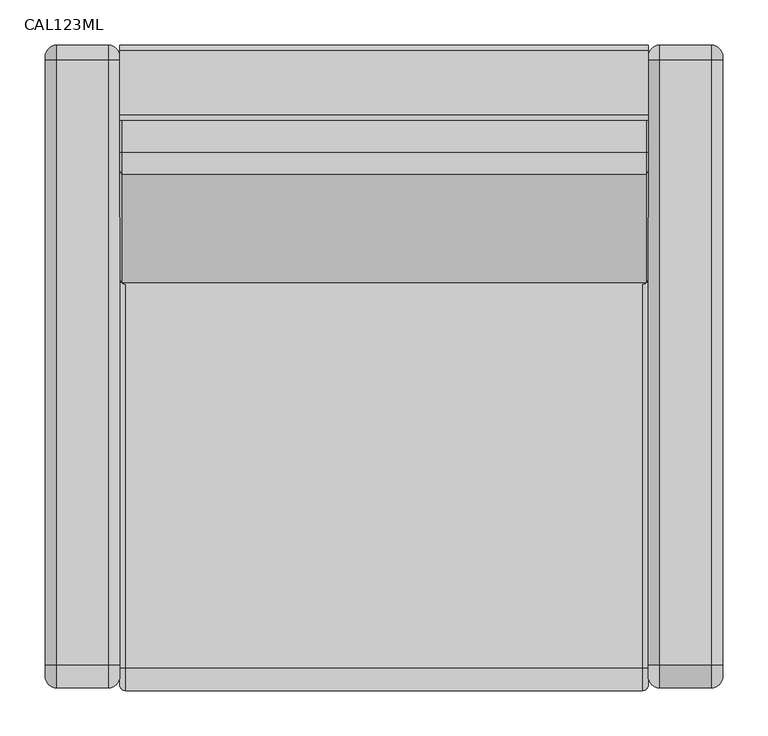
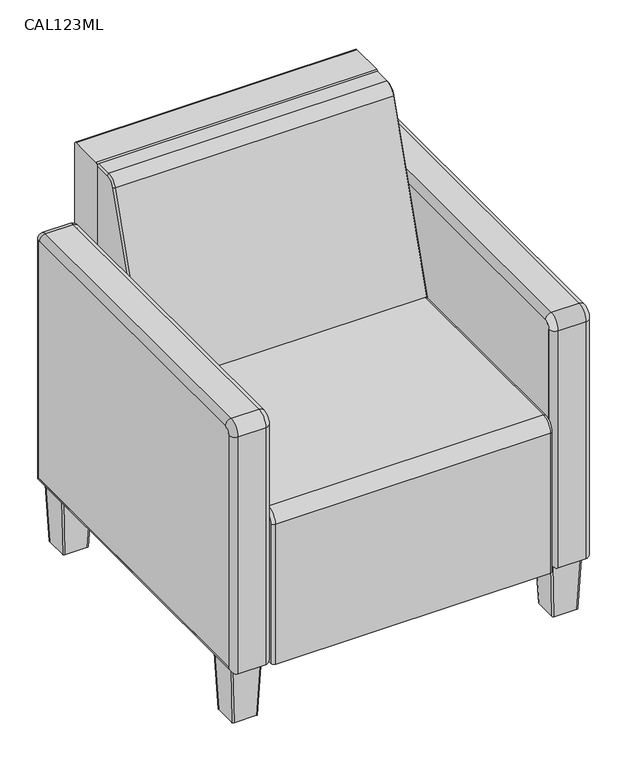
"""IFC4 building model written with IfcOpenShell, lengths in millimetres: furniture geometry, Stance_Healthacare-Carlson-Arm_Chair : CAL123ML."""

from ifc_helpers import new_model, si_unit, point, frame, frame_2d, origin, place, context, project, spatial, polyline, circle_curve, ellipse_curve, trimmed, segment, composite_curve, outline, extrude, source, transform, mapped, element, save
from ifc_brep_helpers import plane_surface, cylinder_surface, revolved_surface, extruded_surface, advanced_brep


def cal123ml_89b00feb(model_context):
    return source(origin(), model_context, "Body", "SolidModel", [
        extrude(outline(polyline([(120.65, 301.625), (123.825, 301.625), (123.825, 273.05), (149.225, 273.05), (149.225, 219.075), (146.05, 219.075), (146.05, 269.875), (120.65, 269.875), (120.65, 301.625)])), frame((0.0, -299.4664097, 0.0), z_axis=(0.0, 1.0, 0.0), x_axis=(0.0, 0.0, 1.0)), (0.0, 0.0, 1.0), 635.0),
        extrude(outline(composite_curve([segment(trimmed(circle_curve(frame_2d((357.7585903, 655.6502)), 3.175), [point((357.7585903, 658.8252))], [point((360.9335903, 655.6502))], False, "CARTESIAN"), True, "CONTINUOUS"), segment(polyline([(360.9335903, 655.6502), (360.9335903, 136.525), (-324.8664097, 136.525), (-324.8664097, 646.1252)]), True, "CONTINUOUS"), segment(trimmed(circle_curve(frame_2d((-312.1664097, 646.1252)), 12.7), [point((-324.8664097, 646.1252))], [point((-312.1664097, 658.8252))], False, "CARTESIAN"), True, "CONTINUOUS"), segment(polyline([(-312.1664097, 658.8252), (357.7585903, 658.8252)]), True, "CONTINUOUS")], self_intersect=False)), frame((292.1, 0.0, 0.0), z_axis=(1.0, 0.0, 0.0), x_axis=(0.0, 1.0, 0.0)), (0.0, 0.0, 1.0), 82.55),
        advanced_brep(
        [(304.8, 357.7585903, 671.5252), (361.95, 357.7585903, 671.5252), (361.95, 373.6335903, 655.6502), (304.8, 373.6335903, 655.6502), (292.1, 357.7585903, 658.8252), (292.1, 360.9335903, 655.6502), (374.65, 357.7585903, 658.8252), (374.65, 360.9335903, 655.6502), (304.8, -312.1664097, 671.5252), (361.95, -312.1664097, 671.5252), (292.1, -312.1664097, 658.8252), (374.65, -312.1664097, 658.8252), (304.8, -337.5664097, 646.1252), (361.95, -337.5664097, 646.1252), (292.1, -324.8664097, 646.1252), (374.65, -324.8664097, 646.1252), (304.8, -337.5664097, 123.825), (361.95, -337.5664097, 123.825), (292.1, -324.8664097, 136.525), (374.65, -324.8664097, 136.525), (304.8, 373.6335903, 123.825), (361.95, 373.6335903, 123.825), (292.1, 360.9335903, 136.525), (374.65, 360.9335903, 136.525)],
        [
            (0, 1),
            (1, 2, circle_curve(frame((361.95, 357.7585903, 655.6502), z_axis=(-1.0, 0.0, 0.0), x_axis=(0.0, 1.0, 0.0)), 15.875)),
            (2, 3),
            (3, 0, circle_curve(frame((304.8, 357.7585903, 655.6502), z_axis=(1.0, 0.0, 0.0), x_axis=(0.0, 1.0, 0.0)), 15.875)),
            (4, 0, circle_curve(frame((304.8, 357.7585903, 658.8252), z_axis=(0.0, 1.0, 0.0), x_axis=(-1.0, 0.0, 0.0)), 12.7)),
            (3, 5, circle_curve(frame((304.8, 360.9335903, 655.6502), z_axis=(0.0, 0.0, 1.0), x_axis=(-1.0, 0.0, 0.0)), 12.7)),
            (5, 4, circle_curve(frame((292.1, 357.7585903, 655.6502), z_axis=(1.0, 0.0, 0.0), x_axis=(0.0, 1.0, 0.0)), 3.175)),
            (6, 4),
            (5, 7),
            (7, 6, circle_curve(frame((374.65, 357.7585903, 655.6502), z_axis=(1.0, 0.0, 0.0), x_axis=(0.0, 1.0, 0.0)), 3.175)),
            (1, 6, circle_curve(frame((361.95, 357.7585903, 658.8252), z_axis=(0.0, 1.0, 0.0), x_axis=(-1.0, 0.0, 0.0)), 12.7)),
            (7, 2, circle_curve(frame((361.95, 360.9335903, 655.6502), z_axis=(0.0, 0.0, 1.0), x_axis=(-1.0, 0.0, 0.0)), 12.7)),
            (0, 8),
            (8, 9),
            (9, 1),
            (4, 10),
            (10, 8, circle_curve(frame((304.8, -312.1664097, 658.8252), z_axis=(0.0, 1.0, 0.0), x_axis=(-1.0, 0.0, 0.0)), 12.7)),
            (6, 11),
            (11, 10),
            (9, 11, circle_curve(frame((361.95, -312.1664097, 658.8252), z_axis=(0.0, 1.0, 0.0), x_axis=(-1.0, 0.0, 0.0)), 12.7)),
            (12, 13),
            (13, 9, circle_curve(frame((361.95, -312.1664097, 646.1252), z_axis=(-1.0, 0.0, 0.0), x_axis=(0.0, 0.0, 1.0)), 25.4)),
            (8, 12, circle_curve(frame((304.8, -312.1664097, 646.1252), z_axis=(1.0, 0.0, 0.0), x_axis=(0.0, 0.0, 1.0)), 25.4)),
            (14, 12, circle_curve(frame((304.8, -324.8664097, 646.1252), z_axis=(0.0, 0.0, 1.0), x_axis=(-1.0, 0.0, 0.0)), 12.7)),
            (10, 14, circle_curve(frame((292.1, -312.1664097, 646.1252), z_axis=(1.0, 0.0, 0.0), x_axis=(0.0, 0.0, 1.0)), 12.7)),
            (15, 14),
            (11, 15, circle_curve(frame((374.65, -312.1664097, 646.1252), z_axis=(1.0, 0.0, 0.0), x_axis=(0.0, 0.0, 1.0)), 12.7)),
            (13, 15, circle_curve(frame((361.95, -324.8664097, 646.1252), z_axis=(0.0, 0.0, 1.0), x_axis=(-1.0, 0.0, 0.0)), 12.7)),
            (12, 16),
            (16, 17),
            (17, 13),
            (14, 18),
            (18, 16, ellipse_curve(frame((304.8, -324.8664097, 136.525), z_axis=(0.0, -0.7071067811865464, 0.7071067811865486), x_axis=(0.0, 0.7071067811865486, 0.7071067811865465)), 17.9605122, 12.7)),
            (15, 19),
            (19, 18),
            (17, 19, ellipse_curve(frame((361.95, -324.8664097, 136.525), z_axis=(0.0, -0.7071067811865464, 0.7071067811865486), x_axis=(0.0, 0.7071067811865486, 0.7071067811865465)), 17.9605122, 12.7)),
            (16, 20),
            (20, 21),
            (21, 17),
            (18, 22),
            (22, 20, ellipse_curve(frame((304.8, 360.9335903, 136.525), z_axis=(0.0, -0.7071067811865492, -0.7071067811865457), x_axis=(0.0, -0.7071067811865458, 0.7071067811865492)), 17.9605122, 12.7)),
            (19, 23),
            (23, 22),
            (21, 23, ellipse_curve(frame((361.95, 360.9335903, 136.525), z_axis=(0.0, -0.7071067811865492, -0.7071067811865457), x_axis=(0.0, -0.7071067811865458, 0.7071067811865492)), 17.9605122, 12.7)),
            (20, 3),
            (2, 21),
            (22, 5),
            (23, 7),
        ],
        [
            cylinder_surface(frame((292.1, 357.7585903, 655.6502), z_axis=(-1.0, 0.0, 0.0), x_axis=(0.0, 1.0, 0.0)), 15.875),
            revolved_surface(trimmed(ellipse_curve(frame((304.8, 360.9335903, 655.6502), z_axis=(0.0, 0.0, 1.0), x_axis=(-1.0, 0.0, 0.0)), 12.7, 12.7), [point((304.8, 373.6335903, 655.6502))], [point((292.1, 360.9335903, 655.6502))], True, "CARTESIAN"), (292.1, 357.7585903, 655.6502), (-1.0, 0.0, 0.0)),
            revolved_surface(polyline([(292.1, 360.9335903, 655.6502), (374.65, 360.9335903, 655.6502)]), (292.1, 357.7585903, 655.6502), (-1.0, 0.0, 0.0)),
            revolved_surface(trimmed(ellipse_curve(frame((361.95, 360.9335903, 655.6502), z_axis=(0.0, 0.0, 1.0), x_axis=(-1.0, 0.0, 0.0)), 12.7, 12.7), [point((374.65, 360.9335903, 655.6502))], [point((361.95, 373.6335903, 655.6502))], True, "CARTESIAN"), (292.1, 357.7585903, 655.6502), (-1.0, 0.0, 0.0)),
            plane_surface(frame((361.95, 357.7585903, 671.5252), z_axis=(0.0, 0.0, 1.0), x_axis=(0.0, -1.0, 0.0))),
            cylinder_surface(frame((304.8, 357.7585903, 658.8252), z_axis=(0.0, 1.0, 0.0), x_axis=(-1.0, 0.0, 0.0)), 12.7),
            plane_surface(frame((292.1, 357.7585903, 658.8252), z_axis=(0.0, 0.0, -1.0), x_axis=(0.0, -1.0, 0.0))),
            cylinder_surface(frame((361.95, 357.7585903, 658.8252), z_axis=(0.0, 1.0, 0.0), x_axis=(-1.0, 0.0, 0.0)), 12.7),
            cylinder_surface(frame((292.1, -312.1664097, 646.1252), z_axis=(-1.0, 0.0, 0.0), x_axis=(0.0, 0.0, 1.0)), 25.4),
            revolved_surface(trimmed(ellipse_curve(frame((304.8, -312.1664097, 658.8252), z_axis=(0.0, -1.0, 0.0), x_axis=(-1.0, 0.0, 0.0)), 12.7, 12.7), [point((304.8, -312.1664097, 671.5252))], [point((292.1, -312.1664097, 658.8252))], True, "CARTESIAN"), (292.1, -312.1664097, 646.1252), (-1.0, 0.0, 0.0)),
            revolved_surface(polyline([(292.1, -312.1664097, 658.8252), (374.65, -312.1664097, 658.8252)]), (292.1, -312.1664097, 646.1252), (-1.0, 0.0, 0.0)),
            revolved_surface(trimmed(ellipse_curve(frame((361.95, -312.1664097, 658.8252), z_axis=(0.0, -1.0, 0.0), x_axis=(-1.0, 0.0, 0.0)), 12.7, 12.7), [point((374.65, -312.1664097, 658.8252))], [point((361.95, -312.1664097, 671.5252))], True, "CARTESIAN"), (292.1, -312.1664097, 646.1252), (-1.0, 0.0, 0.0)),
            plane_surface(frame((361.95, -337.5664097, 646.1252), z_axis=(0.0, -1.0, 0.0), x_axis=(0.0, 0.0, -1.0))),
            cylinder_surface(frame((304.8, -324.8664097, 646.1252), z_axis=(0.0, 0.0, 1.0), x_axis=(-1.0, 0.0, 0.0)), 12.7),
            plane_surface(frame((292.1, -324.8664097, 646.1252), z_axis=(0.0, 1.0, 0.0), x_axis=(0.0, 0.0, -1.0))),
            cylinder_surface(frame((361.95, -324.8664097, 646.1252), z_axis=(0.0, 0.0, 1.0), x_axis=(-1.0, 0.0, 0.0)), 12.7),
            plane_surface(frame((361.95, -337.5664097, 123.825), z_axis=(0.0, 0.0, -1.0), x_axis=(0.0, 1.0, 0.0))),
            cylinder_surface(frame((304.8, -337.5664097, 136.525), z_axis=(0.0, -1.0, 0.0), x_axis=(-1.0, 0.0, 0.0)), 12.7),
            plane_surface(frame((292.1, -324.8664097, 136.525), z_axis=(0.0, 0.0, 1.0), x_axis=(0.0, 1.0, 0.0))),
            cylinder_surface(frame((361.95, -337.5664097, 136.525), z_axis=(0.0, -1.0, 0.0), x_axis=(-1.0, 0.0, 0.0)), 12.7),
            plane_surface(frame((361.95, 373.6335903, 123.825), z_axis=(0.0, 1.0, 0.0), x_axis=(0.0, 0.0, 1.0))),
            cylinder_surface(frame((304.8, 360.9335903, 123.825), z_axis=(0.0, 0.0, -1.0), x_axis=(-1.0, 0.0, 0.0)), 12.7),
            plane_surface(frame((292.1, 360.9335903, 136.525), z_axis=(0.0, -1.0, 0.0), x_axis=(0.0, 0.0, 1.0))),
            cylinder_surface(frame((361.95, 360.9335903, 123.825), z_axis=(0.0, 0.0, -1.0), x_axis=(-1.0, 0.0, 0.0)), 12.7),
        ],
        [
            (0, [[1, 2, 3, 4]]),
            (1, [[5, -4, 6, 7]]),
            (2, [[8, -7, 9, 10]]),
            (3, [[11, -10, 12, -2]]),
            (4, [[13, 14, 15, -1]]),
            (5, [[16, 17, -13, -5]]),
            (6, [[18, 19, -16, -8]]),
            (7, [[-15, 20, -18, -11]]),
            (8, [[21, 22, -14, 23]]),
            (9, [[24, -23, -17, 25]]),
            (10, [[26, -25, -19, 27]]),
            (11, [[28, -27, -20, -22]]),
            (12, [[29, 30, 31, -21]]),
            (13, [[32, 33, -29, -24]]),
            (14, [[34, 35, -32, -26]]),
            (15, [[-31, 36, -34, -28]]),
            (16, [[37, 38, 39, -30]]),
            (17, [[40, 41, -37, -33]]),
            (18, [[42, 43, -40, -35]]),
            (19, [[-39, 44, -42, -36]]),
            (20, [[45, -3, 46, -38]]),
            (21, [[47, -6, -45, -41]]),
            (22, [[48, -9, -47, -43]]),
            (23, [[-46, -12, -48, -44]]),
        ],
    ),
        advanced_brep(
        [(304.8, 291.0835903, 123.825), (361.95, 291.0835903, 123.825), (365.125, 294.2585903, 123.825), (365.125, 351.4085903, 123.825), (361.95, 354.5835903, 123.825), (304.8, 354.5835903, 123.825), (301.625, 351.4085903, 123.825), (301.625, 294.2585903, 123.825), (309.959375, 296.2112153, 0.0), (306.784375, 299.3862153, 0.0), (306.784375, 346.2809653, 0.0), (309.959375, 349.4559653, 0.0), (356.790625, 349.4559653, 0.0), (359.965625, 346.2809653, 0.0), (359.965625, 299.3862153, 0.0), (356.790625, 296.2112153, 0.0)],
        [
            (0, 1),
            (1, 2, circle_curve(frame((361.95, 294.2585903, 123.825), z_axis=(0.0, 0.0, 1.0), x_axis=(-1.0, 0.0, 0.0)), 3.175)),
            (2, 3),
            (3, 4, circle_curve(frame((361.95, 351.4085903, 123.825), z_axis=(0.0, 0.0, 1.0), x_axis=(-1.0, 0.0, 0.0)), 3.175)),
            (4, 5),
            (5, 6, circle_curve(frame((304.8, 351.4085903, 123.825), z_axis=(0.0, 0.0, 1.0), x_axis=(-1.0, 0.0, 0.0)), 3.175)),
            (6, 7),
            (7, 0, circle_curve(frame((304.8, 294.2585903, 123.825), z_axis=(0.0, 0.0, 1.0), x_axis=(-1.0, 0.0, 0.0)), 3.175)),
            (8, 9, circle_curve(frame((309.959375, 299.3862153, 0.0), z_axis=(0.0, 0.0, -1.0), x_axis=(-1.0, 0.0, 0.0)), 3.175)),
            (9, 10),
            (10, 11, circle_curve(frame((309.959375, 346.2809653, 0.0), z_axis=(0.0, 0.0, -1.0), x_axis=(-1.0, 0.0, 0.0)), 3.175)),
            (11, 12),
            (12, 13, circle_curve(frame((356.790625, 346.2809653, 0.0), z_axis=(0.0, 0.0, -1.0), x_axis=(-1.0, 0.0, 0.0)), 3.175)),
            (13, 14),
            (14, 15, circle_curve(frame((356.790625, 299.3862153, 0.0), z_axis=(0.0, 0.0, -1.0), x_axis=(-1.0, 0.0, 0.0)), 3.175)),
            (15, 8),
            (8, 0),
            (7, 9),
            (6, 10),
            (5, 11),
            (4, 12),
            (3, 13),
            (2, 14),
            (1, 15),
        ],
        [
            plane_surface(frame((333.375, 322.8335903, 123.825), z_axis=(0.0, 0.0, 1.0), x_axis=(-1.0, 0.0, 0.0))),
            plane_surface(frame((333.375, 322.8335903, 0.0), z_axis=(0.0, 0.0, -1.0), x_axis=(-1.0, 0.0, 0.0))),
            extruded_surface(trimmed(circle_curve(frame((304.8, 294.2585903, 123.825), z_axis=(0.0, 0.0, -1.0), x_axis=(-1.0, 0.0, 0.0)), 3.175), [point((304.8, 291.0835903, 123.825))], [point((301.625, 294.2585903, 123.825))], True, "CARTESIAN"), (5.159375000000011, 5.127625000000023, -123.825), 124.03847110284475),
            plane_surface(frame((306.784375, 322.8335903, 0.0), z_axis=(-0.9991330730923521, 0.0, -0.04163054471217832), x_axis=(0.0, 1.0, 0.0))),
            extruded_surface(trimmed(circle_curve(frame((304.8, 351.4085903, 123.825), z_axis=(0.0, 0.0, -1.0), x_axis=(-1.0, 0.0, 0.0)), 3.175), [point((301.625, 351.4085903, 123.825))], [point((304.8, 354.5835903, 123.825))], True, "CARTESIAN"), (5.159375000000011, -5.127625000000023, -123.825), 124.03847110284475),
            plane_surface(frame((333.375, 349.4559653, 0.0), z_axis=(0.0, 0.9991436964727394, -0.04137479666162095), x_axis=(1.0, 0.0, 0.0))),
            extruded_surface(trimmed(circle_curve(frame((361.95, 351.4085903, 123.825), z_axis=(0.0, 0.0, -1.0), x_axis=(-1.0, 0.0, 0.0)), 3.175), [point((361.95, 354.5835903, 123.825))], [point((365.125, 351.4085903, 123.825))], True, "CARTESIAN"), (-5.159375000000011, -5.127625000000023, -123.825), 124.03847110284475),
            plane_surface(frame((359.965625, 322.8335903, 0.0), z_axis=(0.9991330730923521, 0.0, -0.04163054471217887), x_axis=(0.0, -1.0, 0.0))),
            extruded_surface(trimmed(circle_curve(frame((361.95, 294.2585903, 123.825), z_axis=(0.0, 0.0, -1.0), x_axis=(-1.0, 0.0, 0.0)), 3.175), [point((365.125, 294.2585903, 123.825))], [point((361.95, 291.0835903, 123.825))], True, "CARTESIAN"), (-5.159375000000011, 5.127625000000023, -123.825), 124.03847110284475),
            plane_surface(frame((333.375, 296.2112153, 0.0), z_axis=(0.0, -0.9991436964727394, -0.0413747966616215), x_axis=(-1.0, 0.0, 0.0))),
        ],
        [
            (0, [[1, 2, 3, 4, 5, 6, 7, 8]]),
            (1, [[9, 10, 11, 12, 13, 14, 15, 16]]),
            (2, [[17, -8, 18, -9]]),
            (3, [[-18, -7, 19, -10]]),
            (4, [[-19, -6, 20, -11]]),
            (5, [[-20, -5, 21, -12]]),
            (6, [[-21, -4, 22, -13]]),
            (7, [[-22, -3, 23, -14]]),
            (8, [[-23, -2, 24, -15]]),
            (9, [[-24, -1, -17, -16]]),
        ],
    ),
        advanced_brep(
        [(304.8, -255.0164097, 123.825), (301.625, -258.1914097, 123.825), (301.625, -315.3414097, 123.825), (304.8, -318.5164097, 123.825), (361.95, -318.5164097, 123.825), (365.125, -315.3414097, 123.825), (365.125, -258.1914097, 123.825), (361.95, -255.0164097, 123.825), (309.959375, -260.1440347, 0.0), (356.790625, -260.1440347, 0.0), (359.965625, -263.3190347, 0.0), (359.965625, -310.2137847, 0.0), (356.790625, -313.3887847, 0.0), (309.959375, -313.3887847, 0.0), (306.784375, -310.2137847, 0.0), (306.784375, -263.3190347, 0.0)],
        [
            (0, 1, circle_curve(frame((304.8, -258.1914097, 123.825), z_axis=(0.0, 0.0, 1.0), x_axis=(-1.0, 0.0, 0.0)), 3.175)),
            (1, 2),
            (2, 3, circle_curve(frame((304.8, -315.3414097, 123.825), z_axis=(0.0, 0.0, 1.0), x_axis=(-1.0, 0.0, 0.0)), 3.175)),
            (3, 4),
            (4, 5, circle_curve(frame((361.95, -315.3414097, 123.825), z_axis=(0.0, 0.0, 1.0), x_axis=(-1.0, 0.0, 0.0)), 3.175)),
            (5, 6),
            (6, 7, circle_curve(frame((361.95, -258.1914097, 123.825), z_axis=(0.0, 0.0, 1.0), x_axis=(-1.0, 0.0, 0.0)), 3.175)),
            (7, 0),
            (8, 9),
            (9, 10, circle_curve(frame((356.790625, -263.3190347, 0.0), z_axis=(0.0, 0.0, -1.0), x_axis=(-1.0, 0.0, 0.0)), 3.175)),
            (10, 11),
            (11, 12, circle_curve(frame((356.790625, -310.2137847, 0.0), z_axis=(0.0, 0.0, -1.0), x_axis=(-1.0, 0.0, 0.0)), 3.175)),
            (12, 13),
            (13, 14, circle_curve(frame((309.959375, -310.2137847, 0.0), z_axis=(0.0, 0.0, -1.0), x_axis=(-1.0, 0.0, 0.0)), 3.175)),
            (14, 15),
            (15, 8, circle_curve(frame((309.959375, -263.3190347, 0.0), z_axis=(0.0, 0.0, -1.0), x_axis=(-1.0, 0.0, 0.0)), 3.175)),
            (8, 0),
            (7, 9),
            (6, 10),
            (5, 11),
            (4, 12),
            (3, 13),
            (2, 14),
            (1, 15),
        ],
        [
            plane_surface(frame((333.375, -286.7664097, 123.825), z_axis=(0.0, 0.0, 1.0), x_axis=(-1.0, 0.0, 0.0))),
            plane_surface(frame((333.375, -286.7664097, 0.0), z_axis=(0.0, 0.0, -1.0), x_axis=(-1.0, 0.0, 0.0))),
            plane_surface(frame((333.375, -260.1440347, 0.0), z_axis=(0.0, 0.9991436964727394, -0.041374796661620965), x_axis=(1.0, 0.0, 0.0))),
            extruded_surface(trimmed(circle_curve(frame((361.95, -258.1914097, 123.825), z_axis=(0.0, 0.0, -1.0), x_axis=(-1.0, 0.0, 0.0)), 3.175), [point((361.95, -255.0164097, 123.825))], [point((365.125, -258.1914097, 123.825))], True, "CARTESIAN"), (-5.159375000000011, -5.127624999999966, -123.825), 124.03847110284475),
            plane_surface(frame((359.965625, -286.7664097, 0.0), z_axis=(0.9991330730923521, 0.0, -0.04163054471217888), x_axis=(0.0, -1.0, 0.0))),
            extruded_surface(trimmed(circle_curve(frame((361.95, -315.3414097, 123.825), z_axis=(0.0, 0.0, -1.0), x_axis=(-1.0, 0.0, 0.0)), 3.175), [point((365.125, -315.3414097, 123.825))], [point((361.95, -318.5164097, 123.825))], True, "CARTESIAN"), (-5.159375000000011, 5.127624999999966, -123.825), 124.03847110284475),
            plane_surface(frame((333.375, -313.3887847, 0.0), z_axis=(0.0, -0.9991436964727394, -0.041374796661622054), x_axis=(-1.0, 0.0, 0.0))),
            extruded_surface(trimmed(circle_curve(frame((304.8, -315.3414097, 123.825), z_axis=(0.0, 0.0, -1.0), x_axis=(-1.0, 0.0, 0.0)), 3.175), [point((304.8, -318.5164097, 123.825))], [point((301.625, -315.3414097, 123.825))], True, "CARTESIAN"), (5.159375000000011, 5.127624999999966, -123.825), 124.03847110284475),
            plane_surface(frame((306.784375, -286.7664097, 0.0), z_axis=(-0.9991330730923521, 0.0, -0.041630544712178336), x_axis=(0.0, 1.0, 0.0))),
            extruded_surface(trimmed(circle_curve(frame((304.8, -258.1914097, 123.825), z_axis=(0.0, 0.0, -1.0), x_axis=(-1.0, 0.0, 0.0)), 3.175), [point((301.625, -258.1914097, 123.825))], [point((304.8, -255.0164097, 123.825))], True, "CARTESIAN"), (5.159375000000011, -5.127624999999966, -123.825), 124.03847110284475),
        ],
        [
            (0, [[1, 2, 3, 4, 5, 6, 7, 8]]),
            (1, [[9, 10, 11, 12, 13, 14, 15, 16]]),
            (2, [[17, -8, 18, -9]]),
            (3, [[-18, -7, 19, -10]]),
            (4, [[-19, -6, 20, -11]]),
            (5, [[-20, -5, 21, -12]]),
            (6, [[-21, -4, 22, -13]]),
            (7, [[-22, -3, 23, -14]]),
            (8, [[-23, -2, 24, -15]]),
            (9, [[-24, -1, -17, -16]]),
        ],
    ),
        extrude(outline(polyline([(120.65, -301.625), (120.65, -269.875), (146.05, -269.875), (146.05, -219.075), (149.225, -219.075), (149.225, -273.05), (123.825, -273.05), (123.825, -301.625), (120.65, -301.625)])), frame((0.0, -299.4664097, 0.0), z_axis=(0.0, 1.0, 0.0), x_axis=(0.0, 0.0, 1.0)), (0.0, 0.0, 1.0), 635.0),
        extrude(outline(composite_curve([segment(trimmed(circle_curve(frame_2d((357.7585903, 655.6502)), 3.175), [point((357.7585903, 658.8252))], [point((360.9335903, 655.6502))], False, "CARTESIAN"), True, "CONTINUOUS"), segment(polyline([(360.9335903, 655.6502), (360.9335903, 136.525), (-324.8664097, 136.525), (-324.8664097, 646.1252)]), True, "CONTINUOUS"), segment(trimmed(circle_curve(frame_2d((-312.1664097, 646.1252)), 12.7), [point((-324.8664097, 646.1252))], [point((-312.1664097, 658.8252))], False, "CARTESIAN"), True, "CONTINUOUS"), segment(polyline([(-312.1664097, 658.8252), (357.7585903, 658.8252)]), True, "CONTINUOUS")], self_intersect=False)), frame((-374.65, 0.0, 0.0), z_axis=(1.0, 0.0, 0.0), x_axis=(0.0, 1.0, 0.0)), (0.0, 0.0, 1.0), 82.55),
        advanced_brep(
        [(-304.8, 357.7585903, 671.5252), (-304.8, 373.6335903, 655.6502), (-361.95, 373.6335903, 655.6502), (-361.95, 357.7585903, 671.5252), (-292.1, 357.7585903, 658.8252), (-292.1, 360.9335903, 655.6502), (-374.65, 357.7585903, 658.8252), (-374.65, 360.9335903, 655.6502), (-361.95, -312.1664097, 671.5252), (-304.8, -312.1664097, 671.5252), (-292.1, -312.1664097, 658.8252), (-374.65, -312.1664097, 658.8252), (-304.8, -337.5664097, 646.1252), (-361.95, -337.5664097, 646.1252), (-292.1, -324.8664097, 646.1252), (-374.65, -324.8664097, 646.1252), (-361.95, -337.5664097, 123.825), (-304.8, -337.5664097, 123.825), (-292.1, -324.8664097, 136.525), (-374.65, -324.8664097, 136.525), (-361.95, 373.6335903, 123.825), (-304.8, 373.6335903, 123.825), (-292.1, 360.9335903, 136.525), (-374.65, 360.9335903, 136.525)],
        [
            (0, 1, circle_curve(frame((-304.8, 357.7585903, 655.6502), z_axis=(-1.0, 0.0, 0.0), x_axis=(0.0, 1.0, 0.0)), 15.875)),
            (1, 2),
            (2, 3, circle_curve(frame((-361.95, 357.7585903, 655.6502), z_axis=(1.0, 0.0, 0.0), x_axis=(0.0, 1.0, 0.0)), 15.875)),
            (3, 0),
            (4, 5, circle_curve(frame((-292.1, 357.7585903, 655.6502), z_axis=(-1.0, 0.0, 0.0), x_axis=(0.0, 1.0, 0.0)), 3.175)),
            (5, 1, circle_curve(frame((-304.8, 360.9335903, 655.6502), z_axis=(0.0, 0.0, 1.0), x_axis=(1.0, 0.0, 0.0)), 12.7)),
            (0, 4, circle_curve(frame((-304.8, 357.7585903, 658.8252), z_axis=(0.0, 1.0, 0.0), x_axis=(1.0, 0.0, 0.0)), 12.7)),
            (6, 7, circle_curve(frame((-374.65, 357.7585903, 655.6502), z_axis=(-1.0, 0.0, 0.0), x_axis=(0.0, 1.0, 0.0)), 3.175)),
            (7, 5),
            (4, 6),
            (2, 7, circle_curve(frame((-361.95, 360.9335903, 655.6502), z_axis=(0.0, 0.0, 1.0), x_axis=(1.0, 0.0, 0.0)), 12.7)),
            (6, 3, circle_curve(frame((-361.95, 357.7585903, 658.8252), z_axis=(0.0, 1.0, 0.0), x_axis=(1.0, 0.0, 0.0)), 12.7)),
            (3, 8),
            (8, 9),
            (9, 0),
            (9, 10, circle_curve(frame((-304.8, -312.1664097, 658.8252), z_axis=(0.0, 1.0, 0.0), x_axis=(1.0, 0.0, 0.0)), 12.7)),
            (10, 4),
            (10, 11),
            (11, 6),
            (11, 8, circle_curve(frame((-361.95, -312.1664097, 658.8252), z_axis=(0.0, 1.0, 0.0), x_axis=(1.0, 0.0, 0.0)), 12.7)),
            (12, 9, circle_curve(frame((-304.8, -312.1664097, 646.1252), z_axis=(-1.0, 0.0, 0.0), x_axis=(0.0, 0.0, 1.0)), 25.4)),
            (8, 13, circle_curve(frame((-361.95, -312.1664097, 646.1252), z_axis=(1.0, 0.0, 0.0), x_axis=(0.0, 0.0, 1.0)), 25.4)),
            (13, 12),
            (14, 10, circle_curve(frame((-292.1, -312.1664097, 646.1252), z_axis=(-1.0, 0.0, 0.0), x_axis=(0.0, 0.0, 1.0)), 12.7)),
            (12, 14, circle_curve(frame((-304.8, -324.8664097, 646.1252), z_axis=(0.0, 0.0, 1.0), x_axis=(1.0, 0.0, 0.0)), 12.7)),
            (15, 11, circle_curve(frame((-374.65, -312.1664097, 646.1252), z_axis=(-1.0, 0.0, 0.0), x_axis=(0.0, 0.0, 1.0)), 12.7)),
            (14, 15),
            (15, 13, circle_curve(frame((-361.95, -324.8664097, 646.1252), z_axis=(0.0, 0.0, 1.0), x_axis=(1.0, 0.0, 0.0)), 12.7)),
            (13, 16),
            (16, 17),
            (17, 12),
            (17, 18, ellipse_curve(frame((-304.8, -324.8664097, 136.525), z_axis=(0.0, -0.7071067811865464, 0.7071067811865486), x_axis=(0.0, 0.7071067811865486, 0.7071067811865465)), 17.9605122, 12.7)),
            (18, 14),
            (18, 19),
            (19, 15),
            (19, 16, ellipse_curve(frame((-361.95, -324.8664097, 136.525), z_axis=(0.0, -0.7071067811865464, 0.7071067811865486), x_axis=(0.0, 0.7071067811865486, 0.7071067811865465)), 17.9605122, 12.7)),
            (16, 20),
            (20, 21),
            (21, 17),
            (21, 22, ellipse_curve(frame((-304.8, 360.9335903, 136.525), z_axis=(0.0, -0.7071067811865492, -0.7071067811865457), x_axis=(0.0, -0.7071067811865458, 0.7071067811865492)), 17.9605122, 12.7)),
            (22, 18),
            (22, 23),
            (23, 19),
            (23, 20, ellipse_curve(frame((-361.95, 360.9335903, 136.525), z_axis=(0.0, -0.7071067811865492, -0.7071067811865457), x_axis=(0.0, -0.7071067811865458, 0.7071067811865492)), 17.9605122, 12.7)),
            (20, 2),
            (1, 21),
            (5, 22),
            (7, 23),
        ],
        [
            cylinder_surface(frame((-292.1, 357.7585903, 655.6502), z_axis=(1.0, 0.0, 0.0), x_axis=(0.0, 1.0, 0.0)), 15.875),
            revolved_surface(trimmed(ellipse_curve(frame((-304.8, 360.9335903, 655.6502), z_axis=(0.0, 0.0, -1.0), x_axis=(1.0, 0.0, 0.0)), 12.7, 12.7), [point((-304.8, 373.6335903, 655.6502))], [point((-292.1, 360.9335903, 655.6502))], True, "CARTESIAN"), (-292.1, 357.7585903, 655.6502), (1.0, 0.0, 0.0)),
            revolved_surface(polyline([(-292.1, 360.9335903, 655.6502), (-374.65, 360.9335903, 655.6502)]), (-292.1, 357.7585903, 655.6502), (1.0, 0.0, 0.0)),
            revolved_surface(trimmed(ellipse_curve(frame((-361.95, 360.9335903, 655.6502), z_axis=(0.0, 0.0, -1.0), x_axis=(1.0, 0.0, 0.0)), 12.7, 12.7), [point((-374.65, 360.9335903, 655.6502))], [point((-361.95, 373.6335903, 655.6502))], True, "CARTESIAN"), (-292.1, 357.7585903, 655.6502), (1.0, 0.0, 0.0)),
            plane_surface(frame((-361.95, 357.7585903, 671.5252), z_axis=(0.0, 0.0, 1.0), x_axis=(0.0, -1.0, 0.0))),
            cylinder_surface(frame((-304.8, 357.7585903, 658.8252), z_axis=(0.0, 1.0, 0.0), x_axis=(1.0, 0.0, 0.0)), 12.7),
            plane_surface(frame((-292.1, 357.7585903, 658.8252), z_axis=(0.0, 0.0, -1.0), x_axis=(0.0, -1.0, 0.0))),
            cylinder_surface(frame((-361.95, 357.7585903, 658.8252), z_axis=(0.0, 1.0, 0.0), x_axis=(1.0, 0.0, 0.0)), 12.7),
            cylinder_surface(frame((-292.1, -312.1664097, 646.1252), z_axis=(1.0, 0.0, 0.0), x_axis=(0.0, 0.0, 1.0)), 25.4),
            revolved_surface(trimmed(ellipse_curve(frame((-304.8, -312.1664097, 658.8252), z_axis=(0.0, 1.0, 0.0), x_axis=(1.0, 0.0, 0.0)), 12.7, 12.7), [point((-304.8, -312.1664097, 671.5252))], [point((-292.1, -312.1664097, 658.8252))], True, "CARTESIAN"), (-292.1, -312.1664097, 646.1252), (1.0, 0.0, 0.0)),
            revolved_surface(polyline([(-292.1, -312.1664097, 658.8252), (-374.65, -312.1664097, 658.8252)]), (-292.1, -312.1664097, 646.1252), (1.0, 0.0, 0.0)),
            revolved_surface(trimmed(ellipse_curve(frame((-361.95, -312.1664097, 658.8252), z_axis=(0.0, 1.0, 0.0), x_axis=(1.0, 0.0, 0.0)), 12.7, 12.7), [point((-374.65, -312.1664097, 658.8252))], [point((-361.95, -312.1664097, 671.5252))], True, "CARTESIAN"), (-292.1, -312.1664097, 646.1252), (1.0, 0.0, 0.0)),
            plane_surface(frame((-361.95, -337.5664097, 646.1252), z_axis=(0.0, -1.0, 0.0), x_axis=(0.0, 0.0, -1.0))),
            cylinder_surface(frame((-304.8, -324.8664097, 646.1252), z_axis=(0.0, 0.0, 1.0), x_axis=(1.0, 0.0, 0.0)), 12.7),
            plane_surface(frame((-292.1, -324.8664097, 646.1252), z_axis=(0.0, 1.0, 0.0), x_axis=(0.0, 0.0, -1.0))),
            cylinder_surface(frame((-361.95, -324.8664097, 646.1252), z_axis=(0.0, 0.0, 1.0), x_axis=(1.0, 0.0, 0.0)), 12.7),
            plane_surface(frame((-361.95, -337.5664097, 123.825), z_axis=(0.0, 0.0, -1.0), x_axis=(0.0, 1.0, 0.0))),
            cylinder_surface(frame((-304.8, -337.5664097, 136.525), z_axis=(0.0, -1.0, 0.0), x_axis=(1.0, 0.0, 0.0)), 12.7),
            plane_surface(frame((-292.1, -324.8664097, 136.525), z_axis=(0.0, 0.0, 1.0), x_axis=(0.0, 1.0, 0.0))),
            cylinder_surface(frame((-361.95, -337.5664097, 136.525), z_axis=(0.0, -1.0, 0.0), x_axis=(1.0, 0.0, 0.0)), 12.7),
            plane_surface(frame((-361.95, 373.6335903, 123.825), z_axis=(0.0, 1.0, 0.0), x_axis=(0.0, 0.0, 1.0))),
            cylinder_surface(frame((-304.8, 360.9335903, 123.825), z_axis=(0.0, 0.0, -1.0), x_axis=(1.0, 0.0, 0.0)), 12.7),
            plane_surface(frame((-292.1, 360.9335903, 136.525), z_axis=(0.0, -1.0, 0.0), x_axis=(0.0, 0.0, 1.0))),
            cylinder_surface(frame((-361.95, 360.9335903, 123.825), z_axis=(0.0, 0.0, -1.0), x_axis=(1.0, 0.0, 0.0)), 12.7),
        ],
        [
            (0, [[1, 2, 3, 4]]),
            (1, [[5, 6, -1, 7]]),
            (2, [[8, 9, -5, 10]]),
            (3, [[-3, 11, -8, 12]]),
            (4, [[-4, 13, 14, 15]]),
            (5, [[-7, -15, 16, 17]]),
            (6, [[-10, -17, 18, 19]]),
            (7, [[-12, -19, 20, -13]]),
            (8, [[21, -14, 22, 23]]),
            (9, [[24, -16, -21, 25]]),
            (10, [[26, -18, -24, 27]]),
            (11, [[-22, -20, -26, 28]]),
            (12, [[-23, 29, 30, 31]]),
            (13, [[-25, -31, 32, 33]]),
            (14, [[-27, -33, 34, 35]]),
            (15, [[-28, -35, 36, -29]]),
            (16, [[-30, 37, 38, 39]]),
            (17, [[-32, -39, 40, 41]]),
            (18, [[-34, -41, 42, 43]]),
            (19, [[-36, -43, 44, -37]]),
            (20, [[-38, 45, -2, 46]]),
            (21, [[-40, -46, -6, 47]]),
            (22, [[-42, -47, -9, 48]]),
            (23, [[-44, -48, -11, -45]]),
        ],
    ),
        advanced_brep(
        [(-304.8, 291.0835903, 123.825), (-301.625, 294.2585903, 123.825), (-301.625, 351.4085903, 123.825), (-304.8, 354.5835903, 123.825), (-361.95, 354.5835903, 123.825), (-365.125, 351.4085903, 123.825), (-365.125, 294.2585903, 123.825), (-361.95, 291.0835903, 123.825), (-309.959375, 296.2112153, 0.0), (-356.790625, 296.2112153, 0.0), (-359.965625, 299.3862153, 0.0), (-359.965625, 346.2809653, 0.0), (-356.790625, 349.4559653, 0.0), (-309.959375, 349.4559653, 0.0), (-306.784375, 346.2809653, 0.0), (-306.784375, 299.3862153, 0.0)],
        [
            (0, 1, circle_curve(frame((-304.8, 294.2585903, 123.825), z_axis=(0.0, 0.0, 1.0), x_axis=(1.0, 0.0, 0.0)), 3.175)),
            (1, 2),
            (2, 3, circle_curve(frame((-304.8, 351.4085903, 123.825), z_axis=(0.0, 0.0, 1.0), x_axis=(1.0, 0.0, 0.0)), 3.175)),
            (3, 4),
            (4, 5, circle_curve(frame((-361.95, 351.4085903, 123.825), z_axis=(0.0, 0.0, 1.0), x_axis=(1.0, 0.0, 0.0)), 3.175)),
            (5, 6),
            (6, 7, circle_curve(frame((-361.95, 294.2585903, 123.825), z_axis=(0.0, 0.0, 1.0), x_axis=(1.0, 0.0, 0.0)), 3.175)),
            (7, 0),
            (8, 9),
            (9, 10, circle_curve(frame((-356.790625, 299.3862153, 0.0), z_axis=(0.0, 0.0, -1.0), x_axis=(1.0, 0.0, 0.0)), 3.175)),
            (10, 11),
            (11, 12, circle_curve(frame((-356.790625, 346.2809653, 0.0), z_axis=(0.0, 0.0, -1.0), x_axis=(1.0, 0.0, 0.0)), 3.175)),
            (12, 13),
            (13, 14, circle_curve(frame((-309.959375, 346.2809653, 0.0), z_axis=(0.0, 0.0, -1.0), x_axis=(1.0, 0.0, 0.0)), 3.175)),
            (14, 15),
            (15, 8, circle_curve(frame((-309.959375, 299.3862153, 0.0), z_axis=(0.0, 0.0, -1.0), x_axis=(1.0, 0.0, 0.0)), 3.175)),
            (15, 1),
            (0, 8),
            (14, 2),
            (13, 3),
            (12, 4),
            (11, 5),
            (10, 6),
            (9, 7),
        ],
        [
            plane_surface(frame((-333.375, 322.8335903, 123.825), z_axis=(0.0, 0.0, 1.0), x_axis=(1.0, 0.0, 0.0))),
            plane_surface(frame((-333.375, 322.8335903, 0.0), z_axis=(0.0, 0.0, -1.0), x_axis=(1.0, 0.0, 0.0))),
            extruded_surface(trimmed(circle_curve(frame((-309.959375, 299.3862153, 0.0), z_axis=(0.0, 0.0, 1.0), x_axis=(1.0, 0.0, 0.0)), 3.175), [point((-309.959375, 296.2112153, 0.0))], [point((-306.784375, 299.3862153, 0.0))], True, "CARTESIAN"), (5.159375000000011, -5.127625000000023, 123.825), 124.03847110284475),
            plane_surface(frame((-306.784375, 322.8335903, 0.0), z_axis=(0.9991330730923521, 0.0, -0.04163054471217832), x_axis=(0.0, 1.0, 0.0))),
            extruded_surface(trimmed(circle_curve(frame((-309.959375, 346.2809653, 0.0), z_axis=(0.0, 0.0, 1.0), x_axis=(1.0, 0.0, 0.0)), 3.175), [point((-306.784375, 346.2809653, 0.0))], [point((-309.959375, 349.4559653, 0.0))], True, "CARTESIAN"), (5.159375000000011, 5.127625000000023, 123.825), 124.03847110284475),
            plane_surface(frame((-333.375, 349.4559653, 0.0), z_axis=(0.0, 0.9991436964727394, -0.04137479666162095), x_axis=(-1.0, 0.0, 0.0))),
            extruded_surface(trimmed(circle_curve(frame((-356.790625, 346.2809653, 0.0), z_axis=(0.0, 0.0, 1.0), x_axis=(1.0, 0.0, 0.0)), 3.175), [point((-356.790625, 349.4559653, 0.0))], [point((-359.965625, 346.2809653, 0.0))], True, "CARTESIAN"), (-5.159375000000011, 5.127625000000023, 123.825), 124.03847110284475),
            plane_surface(frame((-359.965625, 322.8335903, 0.0), z_axis=(-0.9991330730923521, 0.0, -0.04163054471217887), x_axis=(0.0, -1.0, 0.0))),
            extruded_surface(trimmed(circle_curve(frame((-356.790625, 299.3862153, 0.0), z_axis=(0.0, 0.0, 1.0), x_axis=(1.0, 0.0, 0.0)), 3.175), [point((-359.965625, 299.3862153, 0.0))], [point((-356.790625, 296.2112153, 0.0))], True, "CARTESIAN"), (-5.159375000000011, -5.127625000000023, 123.825), 124.03847110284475),
            plane_surface(frame((-333.375, 296.2112153, 0.0), z_axis=(0.0, -0.9991436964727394, -0.0413747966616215), x_axis=(1.0, 0.0, 0.0))),
        ],
        [
            (0, [[1, 2, 3, 4, 5, 6, 7, 8]]),
            (1, [[9, 10, 11, 12, 13, 14, 15, 16]]),
            (2, [[-16, 17, -1, 18]]),
            (3, [[-15, 19, -2, -17]]),
            (4, [[-14, 20, -3, -19]]),
            (5, [[-13, 21, -4, -20]]),
            (6, [[-12, 22, -5, -21]]),
            (7, [[-11, 23, -6, -22]]),
            (8, [[-10, 24, -7, -23]]),
            (9, [[-9, -18, -8, -24]]),
        ],
    ),
        advanced_brep(
        [(-304.8, -255.0164097, 123.825), (-361.95, -255.0164097, 123.825), (-365.125, -258.1914097, 123.825), (-365.125, -315.3414097, 123.825), (-361.95, -318.5164097, 123.825), (-304.8, -318.5164097, 123.825), (-301.625, -315.3414097, 123.825), (-301.625, -258.1914097, 123.825), (-309.959375, -260.1440347, 0.0), (-306.784375, -263.3190347, 0.0), (-306.784375, -310.2137847, 0.0), (-309.959375, -313.3887847, 0.0), (-356.790625, -313.3887847, 0.0), (-359.965625, -310.2137847, 0.0), (-359.965625, -263.3190347, 0.0), (-356.790625, -260.1440347, 0.0)],
        [
            (0, 1),
            (1, 2, circle_curve(frame((-361.95, -258.1914097, 123.825), z_axis=(0.0, 0.0, 1.0), x_axis=(1.0, 0.0, 0.0)), 3.175)),
            (2, 3),
            (3, 4, circle_curve(frame((-361.95, -315.3414097, 123.825), z_axis=(0.0, 0.0, 1.0), x_axis=(1.0, 0.0, 0.0)), 3.175)),
            (4, 5),
            (5, 6, circle_curve(frame((-304.8, -315.3414097, 123.825), z_axis=(0.0, 0.0, 1.0), x_axis=(1.0, 0.0, 0.0)), 3.175)),
            (6, 7),
            (7, 0, circle_curve(frame((-304.8, -258.1914097, 123.825), z_axis=(0.0, 0.0, 1.0), x_axis=(1.0, 0.0, 0.0)), 3.175)),
            (8, 9, circle_curve(frame((-309.959375, -263.3190347, 0.0), z_axis=(0.0, 0.0, -1.0), x_axis=(1.0, 0.0, 0.0)), 3.175)),
            (9, 10),
            (10, 11, circle_curve(frame((-309.959375, -310.2137847, 0.0), z_axis=(0.0, 0.0, -1.0), x_axis=(1.0, 0.0, 0.0)), 3.175)),
            (11, 12),
            (12, 13, circle_curve(frame((-356.790625, -310.2137847, 0.0), z_axis=(0.0, 0.0, -1.0), x_axis=(1.0, 0.0, 0.0)), 3.175)),
            (13, 14),
            (14, 15, circle_curve(frame((-356.790625, -263.3190347, 0.0), z_axis=(0.0, 0.0, -1.0), x_axis=(1.0, 0.0, 0.0)), 3.175)),
            (15, 8),
            (15, 1),
            (0, 8),
            (14, 2),
            (13, 3),
            (12, 4),
            (11, 5),
            (10, 6),
            (9, 7),
        ],
        [
            plane_surface(frame((-333.375, -286.7664097, 123.825), z_axis=(0.0, 0.0, 1.0), x_axis=(1.0, 0.0, 0.0))),
            plane_surface(frame((-333.375, -286.7664097, 0.0), z_axis=(0.0, 0.0, -1.0), x_axis=(1.0, 0.0, 0.0))),
            plane_surface(frame((-333.375, -260.1440347, 0.0), z_axis=(0.0, 0.9991436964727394, -0.041374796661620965), x_axis=(-1.0, 0.0, 0.0))),
            extruded_surface(trimmed(circle_curve(frame((-356.790625, -263.3190347, 0.0), z_axis=(0.0, 0.0, 1.0), x_axis=(1.0, 0.0, 0.0)), 3.175), [point((-356.790625, -260.1440347, 0.0))], [point((-359.965625, -263.3190347, 0.0))], True, "CARTESIAN"), (-5.159375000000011, 5.127624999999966, 123.825), 124.03847110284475),
            plane_surface(frame((-359.965625, -286.7664097, 0.0), z_axis=(-0.9991330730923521, 0.0, -0.04163054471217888), x_axis=(0.0, -1.0, 0.0))),
            extruded_surface(trimmed(circle_curve(frame((-356.790625, -310.2137847, 0.0), z_axis=(0.0, 0.0, 1.0), x_axis=(1.0, 0.0, 0.0)), 3.175), [point((-359.965625, -310.2137847, 0.0))], [point((-356.790625, -313.3887847, 0.0))], True, "CARTESIAN"), (-5.159375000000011, -5.127624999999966, 123.825), 124.03847110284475),
            plane_surface(frame((-333.375, -313.3887847, 0.0), z_axis=(0.0, -0.9991436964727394, -0.041374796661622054), x_axis=(1.0, 0.0, 0.0))),
            extruded_surface(trimmed(circle_curve(frame((-309.959375, -310.2137847, 0.0), z_axis=(0.0, 0.0, 1.0), x_axis=(1.0, 0.0, 0.0)), 3.175), [point((-309.959375, -313.3887847, 0.0))], [point((-306.784375, -310.2137847, 0.0))], True, "CARTESIAN"), (5.159375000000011, -5.127624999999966, 123.825), 124.03847110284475),
            plane_surface(frame((-306.784375, -286.7664097, 0.0), z_axis=(0.9991330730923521, 0.0, -0.041630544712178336), x_axis=(0.0, 1.0, 0.0))),
            extruded_surface(trimmed(circle_curve(frame((-309.959375, -263.3190347, 0.0), z_axis=(0.0, 0.0, 1.0), x_axis=(1.0, 0.0, 0.0)), 3.175), [point((-306.784375, -263.3190347, 0.0))], [point((-309.959375, -260.1440347, 0.0))], True, "CARTESIAN"), (5.159375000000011, 5.127624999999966, 123.825), 124.03847110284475),
        ],
        [
            (0, [[1, 2, 3, 4, 5, 6, 7, 8]]),
            (1, [[9, 10, 11, 12, 13, 14, 15, 16]]),
            (2, [[-16, 17, -1, 18]]),
            (3, [[-15, 19, -2, -17]]),
            (4, [[-14, 20, -3, -19]]),
            (5, [[-13, 21, -4, -20]]),
            (6, [[-12, 22, -5, -21]]),
            (7, [[-11, 23, -6, -22]]),
            (8, [[-10, 24, -7, -23]]),
            (9, [[-9, -18, -8, -24]]),
        ],
    ),
        advanced_brep(
        [(-292.1, 255.2487311, 836.6125), (-289.9501302, 255.2487311, 841.375), (-289.9501302, 290.2429308, 841.375), (-292.1, 290.2429308, 836.6125), (-292.1, 235.6213022, 822.3523382), (-289.9501302, 231.0918956, 823.8240317), (-292.1, 115.9409077, 454.0139582), (-289.9501302, 110.9333188, 454.0139582), (292.1, 290.2429308, 454.0139582), (292.1, 290.2429308, 836.6125), (292.1, 255.2487311, 836.6125), (292.1, 235.6213022, 822.3523382), (292.1, 115.9409077, 454.0139582), (-292.1, 290.2429308, 454.0139582), (289.9501302, 290.2429308, 841.375), (289.9501302, 255.2487311, 841.375), (289.9501302, 231.0918956, 823.8240317), (289.9501302, 110.9333188, 454.0139582)],
        [
            (0, 1, circle_curve(frame((-285.75, 255.2487311, 836.6125), z_axis=(0.0, 1.0, 0.0), x_axis=(0.0, 0.0, -1.0)), 6.35)),
            (1, 2),
            (2, 3, circle_curve(frame((-285.75, 290.2429308, 836.6125), z_axis=(0.0, -1.0, 0.0), x_axis=(0.0, 0.0, -1.0)), 6.35)),
            (3, 0),
            (0, 4, circle_curve(frame((-292.1, 255.2487311, 815.975), z_axis=(1.0, 0.0, 0.0), x_axis=(0.0, 0.0, 1.0)), 20.6375)),
            (4, 5, circle_curve(frame((-285.75, 235.6213022, 822.3523382), z_axis=(0.0, 0.3090169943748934, 0.9510565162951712), x_axis=(0.0, 0.9510565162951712, -0.3090169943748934)), 6.35)),
            (5, 1, circle_curve(frame((-289.9501302, 255.2487311, 815.975), z_axis=(-1.0, 0.0, 0.0), x_axis=(0.0, 0.0, 1.0)), 25.4)),
            (4, 6),
            (6, 7, ellipse_curve(frame((-285.75, 115.9409077, 454.0139582), z_axis=(0.0, 0.0, 1.0), x_axis=(0.0, -1.0, 0.0)), 6.6767851, 6.35)),
            (7, 5),
            (8, 9),
            (9, 10),
            (10, 11, circle_curve(frame((292.1, 255.2487311, 815.975), z_axis=(1.0, 0.0, 0.0), x_axis=(0.0, 0.0, 1.0)), 20.6375)),
            (11, 12),
            (12, 8),
            (13, 6),
            (3, 13),
            (8, 13),
            (2, 14),
            (14, 9, circle_curve(frame((285.75, 290.2429308, 836.6125), z_axis=(0.0, 1.0, 0.0), x_axis=(0.0, 0.0, -1.0)), 6.35)),
            (1, 15),
            (15, 14),
            (5, 16),
            (16, 15, circle_curve(frame((289.9501302, 255.2487311, 815.975), z_axis=(-1.0, 0.0, 0.0), x_axis=(0.0, 1.0, 0.0)), 25.4)),
            (7, 17),
            (17, 16),
            (12, 17, ellipse_curve(frame((285.75, 115.9409077, 454.0139582), z_axis=(0.0, 0.0, -1.0), x_axis=(0.0, -1.0, 0.0)), 6.6767851, 6.35)),
            (15, 10, circle_curve(frame((285.75, 255.2487311, 836.6125), z_axis=(0.0, 1.0, 0.0), x_axis=(0.0, 0.0, -1.0)), 6.35)),
            (16, 11, circle_curve(frame((285.75, 235.6213022, 822.3523382), z_axis=(0.0, 0.30901699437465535, 0.9510565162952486), x_axis=(0.0, 0.9510565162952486, -0.30901699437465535)), 6.35)),
        ],
        [
            cylinder_surface(frame((-285.75, 290.2429308, 836.6125), z_axis=(0.0, -1.0, 0.0), x_axis=(0.0, 0.0, -1.0)), 6.35),
            revolved_surface(trimmed(ellipse_curve(frame((-285.75, 255.2487311, 836.6125), z_axis=(0.0, 1.0, 0.0), x_axis=(0.0, 0.0, -1.0)), 6.35, 6.35), [point((-292.1, 255.2487311, 836.6125))], [point((-285.75, 255.2487311, 842.9625))], True, "CARTESIAN"), (-292.1, 255.2487311, 815.975), (1.0, 0.0, 0.0)),
            cylinder_surface(frame((-285.75, 235.6213022, 822.3523382), z_axis=(0.0, -0.3090169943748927, -0.9510565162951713), x_axis=(0.0, 0.9510565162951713, -0.3090169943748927)), 6.35),
            plane_surface(frame((292.1, 290.2429308, 841.375), z_axis=(1.0, 0.0, 0.0), x_axis=(0.0, 0.0, 1.0))),
            plane_surface(frame((-292.1, 290.2429308, 841.375), z_axis=(-1.0, 0.0, 0.0), x_axis=(0.0, 0.0, -1.0))),
            plane_surface(frame((292.1, 290.2429308, 454.0139582), z_axis=(0.0, 1.0, 0.0), x_axis=(-1.0, 0.0, 0.0))),
            plane_surface(frame((292.1, 290.2429308, 841.375), z_axis=(0.0, 0.0, 1.0), x_axis=(-1.0, 0.0, 0.0))),
            cylinder_surface(frame((-292.1, 255.2487311, 815.975), z_axis=(1.0, 0.0, 0.0), x_axis=(0.0, 1.0, 0.0)), 25.4),
            plane_surface(frame((292.1, 231.0918956, 823.8240317), z_axis=(0.0, -0.9510565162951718, 0.3090169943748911), x_axis=(-1.0, 0.0, 0.0))),
            plane_surface(frame((292.1, 110.9333188, 454.0139582), z_axis=(0.0, 0.0, -1.0), x_axis=(-1.0, 0.0, 0.0))),
            cylinder_surface(frame((285.75, 290.2429308, 836.6125), z_axis=(0.0, -1.0, 0.0), x_axis=(0.0, 0.0, -1.0)), 6.35),
            revolved_surface(trimmed(ellipse_curve(frame((285.75, 255.2487311, 836.6125), z_axis=(0.0, 1.0, 0.0), x_axis=(0.0, 0.0, -1.0)), 6.35, 6.35), [point((285.75, 255.2487311, 842.9625))], [point((292.1, 255.2487311, 836.6125))], True, "CARTESIAN"), (292.1, 255.2487311, 815.975), (1.0, 0.0, 0.0)),
            cylinder_surface(frame((285.75, 235.6213022, 822.3523382), z_axis=(0.0, -0.3090169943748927, -0.9510565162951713), x_axis=(0.0, 0.9510565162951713, -0.3090169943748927)), 6.35),
        ],
        [
            (0, [[1, 2, 3, 4]]),
            (1, [[-1, 5, 6, 7]]),
            (2, [[-6, 8, 9, 10]]),
            (3, [[11, 12, 13, 14, 15]]),
            (4, [[16, -8, -5, -4, 17]]),
            (5, [[18, -17, -3, 19, 20, -11]]),
            (6, [[-2, 21, 22, -19]]),
            (7, [[-7, 23, 24, -21]]),
            (8, [[-10, 25, 26, -23]]),
            (9, [[-18, -15, 27, -25, -9, -16]]),
            (10, [[28, -12, -20, -22]]),
            (11, [[-28, -24, 29, -13]]),
            (12, [[-29, -26, -27, -14]]),
        ],
    ),
        extrude(outline(composite_curve([segment(trimmed(circle_curve(frame_2d((367.2835903, 835.025)), 6.35), [point((367.2835903, 841.375))], [point((373.6335903, 835.025))], False, "CARTESIAN"), True, "CONTINUOUS"), segment(polyline([(373.6335903, 835.025), (373.6335903, 123.825), (290.2429308, 123.825), (290.2429308, 835.025)]), True, "CONTINUOUS"), segment(trimmed(circle_curve(frame_2d((296.5929308, 835.025)), 6.35), [point((290.2429308, 835.025))], [point((296.5929308, 841.375))], False, "CARTESIAN"), True, "CONTINUOUS"), segment(polyline([(296.5929308, 841.375), (367.2835903, 841.375)]), True, "CONTINUOUS")], self_intersect=False)), frame((-292.1, 0.0, 0.0), z_axis=(1.0, 0.0, 0.0), x_axis=(0.0, 1.0, 0.0)), (0.0, 0.0, 1.0), 584.2),
        advanced_brep(
        [(292.1, 246.7364918, 120.649997), (292.1, 246.7364918, 454.025), (292.1, 115.9444954, 454.025), (292.1, 113.8812553, 447.675), (292.1, -315.1640295, 447.675), (292.1, -334.2140295, 428.625), (292.1, -334.2140295, 120.649997), (-292.1, 246.7364918, 454.025), (-292.1, 246.7364918, 120.649997), (-292.1, -334.2140295, 120.649997), (-292.1, -334.2140295, 428.625), (-292.1, -315.1640295, 447.675), (-292.1, 113.8812553, 447.675), (-292.1, 115.9444954, 454.025), (285.75, -340.5640295, 120.649997), (285.75, -340.5640295, 428.625), (-285.75, -340.5640295, 428.625), (-285.75, -340.5640295, 120.649997), (-285.75, 109.2677103, 454.025), (-285.75, -315.1640295, 454.025), (285.75, -315.1640295, 454.025), (285.75, 109.2677103, 454.025)],
        [
            (0, 1),
            (1, 2),
            (2, 3),
            (3, 4),
            (4, 5, circle_curve(frame((292.1, -315.1640295, 428.625), z_axis=(1.0, 0.0, 0.0), x_axis=(0.0, 0.0, 1.0)), 19.05)),
            (5, 6),
            (6, 0),
            (7, 8),
            (8, 9),
            (9, 10),
            (10, 11, circle_curve(frame((-292.1, -315.1640295, 428.625), z_axis=(-1.0, 0.0, 0.0), x_axis=(0.0, 0.0, 1.0)), 19.05)),
            (11, 12),
            (12, 13),
            (13, 7),
            (14, 15),
            (15, 16),
            (16, 17),
            (17, 14),
            (8, 0),
            (6, 14, circle_curve(frame((285.75, -334.2140295, 120.649997), z_axis=(0.0, 0.0, -1.0), x_axis=(0.0, 1.0, 0.0)), 6.35)),
            (17, 9, circle_curve(frame((-285.75, -334.2140295, 120.649997), z_axis=(0.0, 0.0, -1.0), x_axis=(0.0, 1.0, 0.0)), 6.35)),
            (1, 7),
            (13, 18, ellipse_curve(frame((-285.75, 115.9444954, 454.025), z_axis=(0.0, 0.0, 1.0), x_axis=(0.0, -1.0, 0.0)), 6.6767851, 6.35)),
            (18, 19),
            (19, 20),
            (20, 21),
            (21, 2, ellipse_curve(frame((285.75, 115.9444954, 454.025), z_axis=(0.0, 0.0, 1.0), x_axis=(0.0, -1.0, 0.0)), 6.6767851, 6.35)),
            (20, 4, circle_curve(frame((285.75, -315.1640295, 447.675), z_axis=(0.0, 1.0, 0.0), x_axis=(0.0, 0.0, -1.0)), 6.35)),
            (3, 21, ellipse_curve(frame((285.75, 113.8812553, 447.675), z_axis=(0.0, -0.8090169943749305, -0.5877852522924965), x_axis=(0.0, -0.5877852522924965, 0.8090169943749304)), 7.8490317, 6.35)),
            (11, 19, circle_curve(frame((-285.75, -315.1640295, 447.675), z_axis=(0.0, 1.0, 0.0), x_axis=(0.0, 0.0, -1.0)), 6.35)),
            (18, 12, ellipse_curve(frame((-285.75, 113.8812553, 447.675), z_axis=(0.0, -0.8090169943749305, -0.5877852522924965), x_axis=(0.0, -0.5877852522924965, 0.8090169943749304)), 7.8490317, 6.35)),
            (15, 20, circle_curve(frame((285.75, -315.1640295, 428.625), z_axis=(-1.0, 0.0, 0.0), x_axis=(0.0, 1.0, 0.0)), 25.4)),
            (19, 16, circle_curve(frame((-285.75, -315.1640295, 428.625), z_axis=(1.0, 0.0, 0.0), x_axis=(0.0, 1.0, 0.0)), 25.4)),
            (10, 16, circle_curve(frame((-285.75, -334.2140295, 428.625), z_axis=(0.0, 0.0, 1.0), x_axis=(0.0, 1.0, 0.0)), 6.35)),
            (15, 5, circle_curve(frame((285.75, -334.2140295, 428.625), z_axis=(0.0, 0.0, 1.0), x_axis=(0.0, 1.0, 0.0)), 6.35)),
        ],
        [
            plane_surface(frame((292.1, -289.7640295, 428.625), z_axis=(1.0, 0.0, 0.0), x_axis=(0.0, 0.0, 1.0))),
            plane_surface(frame((-292.1, -289.7640295, 428.625), z_axis=(-1.0, 0.0, 0.0), x_axis=(0.0, 0.0, -1.0))),
            plane_surface(frame((292.1, -340.5640295, 428.625), z_axis=(0.0, -1.0, 0.0), x_axis=(-1.0, 0.0, 0.0))),
            plane_surface(frame((292.1, -340.5640295, 120.649997), z_axis=(0.0, 0.0, -1.0), x_axis=(-1.0, 0.0, 0.0))),
            plane_surface(frame((292.1, 246.7364918, 454.025), z_axis=(0.0, 0.0, 1.0), x_axis=(-1.0, 0.0, 0.0))),
            cylinder_surface(frame((285.75, 109.2677103, 447.675), z_axis=(0.0, -1.0, 0.0), x_axis=(0.0, 0.0, -1.0)), 6.35),
            cylinder_surface(frame((-285.75, 109.2677103, 447.675), z_axis=(0.0, -1.0, 0.0), x_axis=(0.0, 0.0, -1.0)), 6.35),
            cylinder_surface(frame((-292.1, -315.1640295, 428.625), z_axis=(1.0, 0.0, 0.0), x_axis=(0.0, 1.0, 0.0)), 25.4),
            plane_surface(frame((292.1, 246.7364918, 120.649997), z_axis=(0.0, 1.0, 0.0), x_axis=(-1.0, 0.0, 0.0))),
            revolved_surface(trimmed(ellipse_curve(frame((-285.75, -315.1640295, 447.675), z_axis=(0.0, 1.0, 0.0), x_axis=(0.0, 0.0, -1.0)), 6.35, 6.35), [point((-292.1, -315.1640295, 447.675))], [point((-285.75, -315.1640295, 454.025))], True, "CARTESIAN"), (-292.1, -315.1640295, 428.625), (1.0, 0.0, 0.0)),
            cylinder_surface(frame((-285.75, -334.2140295, 428.625), z_axis=(0.0, 0.0, -1.0), x_axis=(0.0, 1.0, 0.0)), 6.35),
            revolved_surface(trimmed(ellipse_curve(frame((285.75, -315.1640295, 447.675), z_axis=(0.0, 1.0, 0.0), x_axis=(0.0, 0.0, -1.0)), 6.35, 6.35), [point((285.75, -315.1640295, 454.025))], [point((292.1, -315.1640295, 447.675))], True, "CARTESIAN"), (292.1, -315.1640295, 428.625), (1.0, 0.0, 0.0)),
            cylinder_surface(frame((285.75, -334.2140295, 428.625), z_axis=(0.0, 0.0, -1.0), x_axis=(0.0, 1.0, 0.0)), 6.35),
            cylinder_surface(frame((-285.75, 235.6213022, 822.3523382), z_axis=(0.0, -0.3090169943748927, -0.9510565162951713), x_axis=(0.0, 0.9510565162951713, -0.3090169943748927)), 6.35),
            cylinder_surface(frame((285.75, 235.6213022, 822.3523382), z_axis=(0.0, -0.3090169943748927, -0.9510565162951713), x_axis=(0.0, 0.9510565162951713, -0.3090169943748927)), 6.35),
        ],
        [
            (0, [[1, 2, 3, 4, 5, 6, 7]]),
            (1, [[8, 9, 10, 11, 12, 13, 14]]),
            (2, [[15, 16, 17, 18]]),
            (3, [[19, -7, 20, -18, 21, -9]]),
            (4, [[22, -14, 23, 24, 25, 26, 27, -2]]),
            (5, [[28, -4, 29, -26]]),
            (6, [[30, -24, 31, -12]]),
            (7, [[32, -25, 33, -16]]),
            (8, [[-1, -19, -8, -22]]),
            (9, [[-30, -11, 34, -33]]),
            (10, [[-34, -10, -21, -17]]),
            (11, [[-28, -32, 35, -5]]),
            (12, [[-35, -15, -20, -6]]),
            (13, [[-31, -23, -13]]),
            (14, [[-29, -3, -27]]),
        ],
    ),
    ])


if __name__ == "__main__":
    model = new_model("IFC4")
    model_context = context("Model", 3, world=origin())
    ifc_project = project(units=[si_unit("LENGTHUNIT", "METRE", prefix="MILLI")], contexts=[model_context])
    site = spatial("IfcSite", under=ifc_project)
    building = spatial("IfcBuilding", under=site)
    placement = place(None, origin())
    cal123ml_shape = cal123ml_89b00feb(model_context)
    element("IfcFurniture", 1, ObjectType="Stance_Healthacare-Carlson-Arm_Chair : CAL123ML", at=placement, inside=building, context=model_context, shape_type="MappedRepresentation", body=[
        mapped(cal123ml_shape, transform((0.0, 0.0, 0.0), x_axis=(1.0, 0.0, 0.0), y_axis=(0.0, 1.0, 0.0), z_axis=(0.0, 0.0, 1.0))),
    ])
    save(model, "model.ifc")
